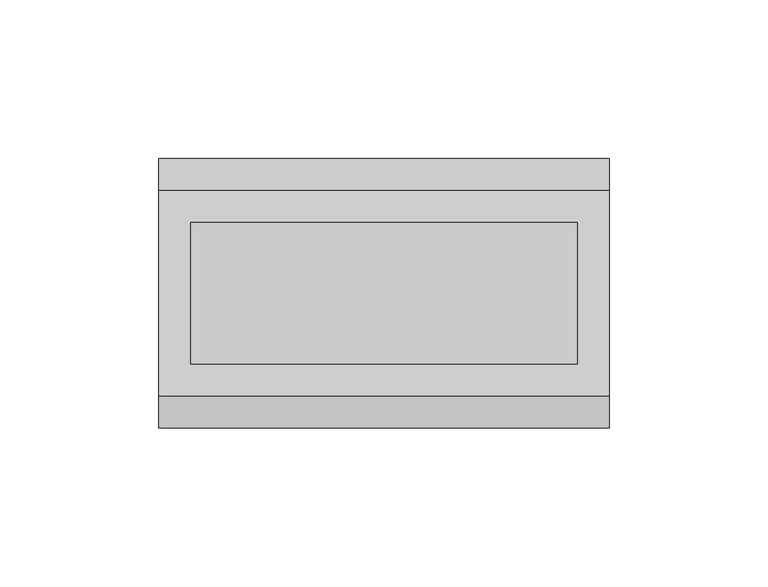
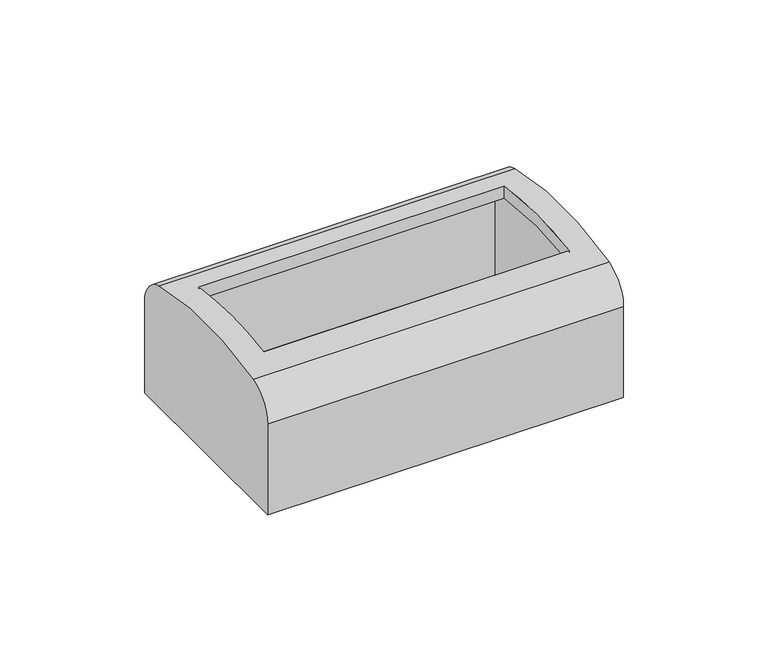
"""IFC4 building model written with IfcOpenShell, lengths in millimetres: cable carrier fitting geometry, КНС_МодульнаяНастеннаяКоробка_DKC : IP40, 4мод.."""

from ifc_helpers import new_model, si_unit, frame, origin, place, context, project, spatial, polyline, circle_curve, source, transform, mapped, element, save
from ifc_brep_helpers import plane_surface, cylinder_surface, revolved_surface, advanced_brep


def cable_carrier_fitting_ba0b64d6(model_context):
    return source(origin(), model_context, "Body", "AdvancedBrep", [
        advanced_brep(
        [(71.0, 42.5, 0.0), (71.0, 42.5, 38.4), (71.0, 32.5785942, 51.1564497), (71.0, -32.5785942, 51.1564497), (71.0, -42.5, 38.4), (71.0, -42.5, 0.0), (-71.0, 42.5, 0.0), (-71.0, -42.5, 0.0), (-71.0, -42.5, 38.4), (-71.0, -32.5785942, 51.1564497), (-71.0, 32.5785942, 51.1564497), (-71.0, 42.5, 38.4), (-61.0, -22.5, 53.3024569), (61.0, -22.5, 53.3024569), (61.0, -22.5, 48.2064495), (-61.0, -22.5, 48.2064495), (61.0, 22.5, 53.3024569), (61.0, 22.5, 48.2064495), (61.0, 0.0, 49.9994992), (-61.0, 22.5, 53.3024569), (-61.0, 22.5, 48.2064495), (-61.0, 0.0, 49.9994992), (66.0, -31.3476937, 46.3103292), (66.0, 0.0, 49.9994992), (66.0, 31.3476937, 46.3103292), (66.0, 37.5, 38.4), (66.0, 37.5, 5.0), (66.0, -37.5, 5.0), (66.0, -37.5, 38.4), (-66.0, -31.3476937, 46.3103292), (-66.0, -37.5, 38.4), (-66.0, -37.5, 5.0), (-66.0, 37.5, 5.0), (-66.0, 37.5, 38.4), (-66.0, 31.3476937, 46.3103292), (-66.0, 0.0, 49.9994992)],
        [
            (0, 1),
            (1, 2, circle_curve(frame((71.0, 29.3384931, 38.4), z_axis=(1.0, 0.0, 0.0), x_axis=(0.0, 1.0, 0.0)), 13.1615069)),
            (2, 3, circle_curve(frame((71.0, 0.0, -77.1072021), z_axis=(1.0, 0.0, 0.0), x_axis=(0.0, 1.0, 0.0)), 132.3364242)),
            (3, 4, circle_curve(frame((71.0, -29.3384931, 38.4), z_axis=(1.0, 0.0, 0.0), x_axis=(0.0, 1.0, 0.0)), 13.1615069)),
            (4, 5),
            (5, 0),
            (6, 7),
            (7, 8),
            (8, 9, circle_curve(frame((-71.0, -29.3384931, 38.4), z_axis=(-1.0, 0.0, 0.0), x_axis=(0.0, 1.0, 0.0)), 13.1615069)),
            (9, 10, circle_curve(frame((-71.0, 0.0, -77.1072021), z_axis=(-1.0, 0.0, 0.0), x_axis=(0.0, 1.0, 0.0)), 132.3364242)),
            (10, 11, circle_curve(frame((-71.0, 29.3384931, 38.4), z_axis=(-1.0, 0.0, 0.0), x_axis=(0.0, 1.0, 0.0)), 13.1615069)),
            (11, 6),
            (0, 6),
            (11, 1),
            (10, 2),
            (3, 9),
            (8, 4),
            (7, 5),
            (12, 13),
            (13, 14),
            (14, 15),
            (15, 12),
            (13, 16, circle_curve(frame((61.0, 0.0, -77.1072021), z_axis=(-1.0, 0.0, 0.0), x_axis=(0.0, 1.0, 0.0)), 132.3364242)),
            (16, 17),
            (17, 18, circle_curve(frame((61.0, 1.7372224, -70.2676652), z_axis=(1.0, 0.0, 0.0), x_axis=(0.0, 1.0, 0.0)), 120.2797106)),
            (18, 14, circle_curve(frame((61.0, -1.7372224, -70.2676652), z_axis=(1.0, 0.0, 0.0), x_axis=(0.0, 1.0, 0.0)), 120.2797106)),
            (16, 19),
            (19, 20),
            (20, 17),
            (19, 12, circle_curve(frame((-61.0, 0.0, -77.1072021), z_axis=(1.0, 0.0, 0.0), x_axis=(0.0, 1.0, 0.0)), 132.3364242)),
            (15, 21, circle_curve(frame((-61.0, -1.7372224, -70.2676652), z_axis=(-1.0, 0.0, 0.0), x_axis=(0.0, 1.0, 0.0)), 120.2797106)),
            (21, 20, circle_curve(frame((-61.0, 1.7372224, -70.2676652), z_axis=(-1.0, 0.0, 0.0), x_axis=(0.0, 1.0, 0.0)), 120.2797106)),
            (22, 23, circle_curve(frame((66.0, -1.7372224, -70.2676652), z_axis=(-1.0, 0.0, 0.0), x_axis=(0.0, 1.0, 0.0)), 120.2797106)),
            (23, 24, circle_curve(frame((66.0, 1.7372224, -70.2676652), z_axis=(-1.0, 0.0, 0.0), x_axis=(0.0, 1.0, 0.0)), 120.2797106)),
            (24, 25, circle_curve(frame((66.0, 29.3384931, 38.4), z_axis=(-1.0, 0.0, 0.0), x_axis=(0.0, 1.0, 0.0)), 8.1615069)),
            (25, 26),
            (26, 27),
            (27, 28),
            (28, 22, circle_curve(frame((66.0, -29.3384931, 38.4), z_axis=(-1.0, 0.0, 0.0), x_axis=(0.0, 1.0, 0.0)), 8.1615069)),
            (29, 30, circle_curve(frame((-66.0, -29.3384931, 38.4), z_axis=(1.0, 0.0, 0.0), x_axis=(0.0, 1.0, 0.0)), 8.1615069)),
            (30, 31),
            (31, 32),
            (32, 33),
            (33, 34, circle_curve(frame((-66.0, 29.3384931, 38.4), z_axis=(1.0, 0.0, 0.0), x_axis=(0.0, 1.0, 0.0)), 8.1615069)),
            (34, 35, circle_curve(frame((-66.0, 1.7372224, -70.2676652), z_axis=(1.0, 0.0, 0.0), x_axis=(0.0, 1.0, 0.0)), 120.2797106)),
            (35, 29, circle_curve(frame((-66.0, -1.7372224, -70.2676652), z_axis=(1.0, 0.0, 0.0), x_axis=(0.0, 1.0, 0.0)), 120.2797106)),
            (28, 30),
            (29, 22),
            (27, 31),
            (26, 32),
            (25, 33),
            (24, 34),
            (23, 18),
            (21, 35),
        ],
        [
            plane_surface(frame((71.0, 42.5, 38.4), z_axis=(1.0, 0.0, 0.0), x_axis=(0.0, 0.0, 1.0))),
            plane_surface(frame((-71.0, 42.5, 38.4), z_axis=(-1.0, 0.0, 0.0), x_axis=(0.0, 0.0, -1.0))),
            plane_surface(frame((71.0, 42.5, 0.0), z_axis=(0.0, 1.0, 0.0), x_axis=(-1.0, 0.0, 0.0))),
            cylinder_surface(frame((-71.0, 29.3384931, 38.4), z_axis=(1.0, 0.0, 0.0), x_axis=(0.0, 1.0, 0.0)), 13.1615069),
            cylinder_surface(frame((-71.0, -29.3384931, 38.4), z_axis=(1.0, 0.0, 0.0), x_axis=(0.0, 1.0, 0.0)), 13.1615069),
            plane_surface(frame((71.0, -42.5, 38.4), z_axis=(0.0, -1.0, 0.0), x_axis=(-1.0, 0.0, 0.0))),
            plane_surface(frame((71.0, -42.5, 0.0), z_axis=(0.0, 0.0, -1.0), x_axis=(-1.0, 0.0, 0.0))),
            plane_surface(frame((-61.0, -22.5, 64.2929878), z_axis=(0.0, 1.0, 0.0), x_axis=(0.0, 0.0, -1.0))),
            plane_surface(frame((61.0, -22.5, 64.2929878), z_axis=(-1.0, 0.0, 0.0), x_axis=(0.0, 0.0, -1.0))),
            plane_surface(frame((61.0, 22.5, 64.2929878), z_axis=(0.0, -1.0, 0.0), x_axis=(0.0, 0.0, -1.0))),
            plane_surface(frame((-61.0, 22.5, 64.2929878), z_axis=(1.0, 0.0, 0.0), x_axis=(0.0, 0.0, -1.0))),
            plane_surface(frame((66.0, -21.1769862, 38.4), z_axis=(-1.0, 0.0, 0.0), x_axis=(0.0, 0.0, 1.0))),
            plane_surface(frame((-66.0, -21.1769862, 38.4), z_axis=(1.0, 0.0, 0.0), x_axis=(0.0, 0.0, -1.0))),
            revolved_surface(polyline([(66.0, -21.1769862, 38.4), (-66.0, -21.1769862, 38.4)]), (-66.0, -29.3384931, 38.4), (1.0, 0.0, 0.0)),
            plane_surface(frame((66.0, -37.5, 38.4), z_axis=(0.0, 1.0, 0.0), x_axis=(-1.0, 0.0, 0.0))),
            plane_surface(frame((66.0, -37.5, 5.0), z_axis=(0.0, 0.0, 1.0), x_axis=(-1.0, 0.0, 0.0))),
            plane_surface(frame((66.0, 37.5, 5.0), z_axis=(0.0, -1.0, 0.0), x_axis=(-1.0, 0.0, 0.0))),
            revolved_surface(polyline([(66.0, 37.5, 38.4), (-66.0, 37.5, 38.4)]), (-66.0, 29.3384931, 38.4), (1.0, 0.0, 0.0)),
            revolved_surface(polyline([(66.0, 122.016933, -70.2676652), (-66.0, 122.016933, -70.2676652)]), (-66.0, 1.7372224, -70.2676652), (1.0, 0.0, 0.0)),
            revolved_surface(polyline([(66.0, 118.54248820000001, -70.2676652), (-66.0, 118.54248820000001, -70.2676652)]), (-66.0, -1.7372224, -70.2676652), (1.0, 0.0, 0.0)),
            cylinder_surface(frame((-71.0, 0.0, -77.1072021), z_axis=(1.0, 0.0, 0.0), x_axis=(0.0, 1.0, 0.0)), 132.3364242),
        ],
        [
            (0, [[1, 2, 3, 4, 5, 6]]),
            (1, [[7, 8, 9, 10, 11, 12]]),
            (2, [[-1, 13, -12, 14]]),
            (3, [[-2, -14, -11, 15]]),
            (4, [[-4, 16, -9, 17]]),
            (5, [[-5, -17, -8, 18]]),
            (6, [[-6, -18, -7, -13]]),
            (7, [[19, 20, 21, 22]]),
            (8, [[23, 24, 25, 26, -20]]),
            (9, [[27, 28, 29, -24]]),
            (10, [[30, -22, 31, 32, -28]]),
            (11, [[33, 34, 35, 36, 37, 38, 39]]),
            (12, [[40, 41, 42, 43, 44, 45, 46]]),
            (13, [[-39, 47, -40, 48]]),
            (14, [[-38, 49, -41, -47]]),
            (15, [[-37, 50, -42, -49]]),
            (16, [[-36, 51, -43, -50]]),
            (17, [[-35, 52, -44, -51]]),
            (18, [[-34, 53, -25, -29, -32, 54, -45, -52]]),
            (19, [[-33, -48, -46, -54, -31, -21, -26, -53]]),
            (20, [[-3, -15, -10, -16], [-19, -30, -27, -23]]),
        ],
    ),
    ])


if __name__ == "__main__":
    model = new_model("IFC4")
    model_context = context("Model", 3, world=origin())
    ifc_project = project(units=[si_unit("LENGTHUNIT", "METRE", prefix="MILLI")], contexts=[model_context])
    site = spatial("IfcSite", under=ifc_project)
    building = spatial("IfcBuilding", under=site)
    placement = place(None, origin())
    cable_carrier_fitting_shape = cable_carrier_fitting_ba0b64d6(model_context)
    element("IfcCableCarrierFitting", 1, ObjectType="КНС_МодульнаяНастеннаяКоробка_DKC : IP40, 4мод.", at=placement, inside=building, context=model_context, shape_type="MappedRepresentation", body=[
        mapped(cable_carrier_fitting_shape, transform((0.0, 0.0, 0.0), x_axis=(1.0, 0.0, 0.0), y_axis=(0.0, 1.0, 0.0), z_axis=(0.0, 0.0, 1.0))),
    ])
    save(model, "model.ifc")
